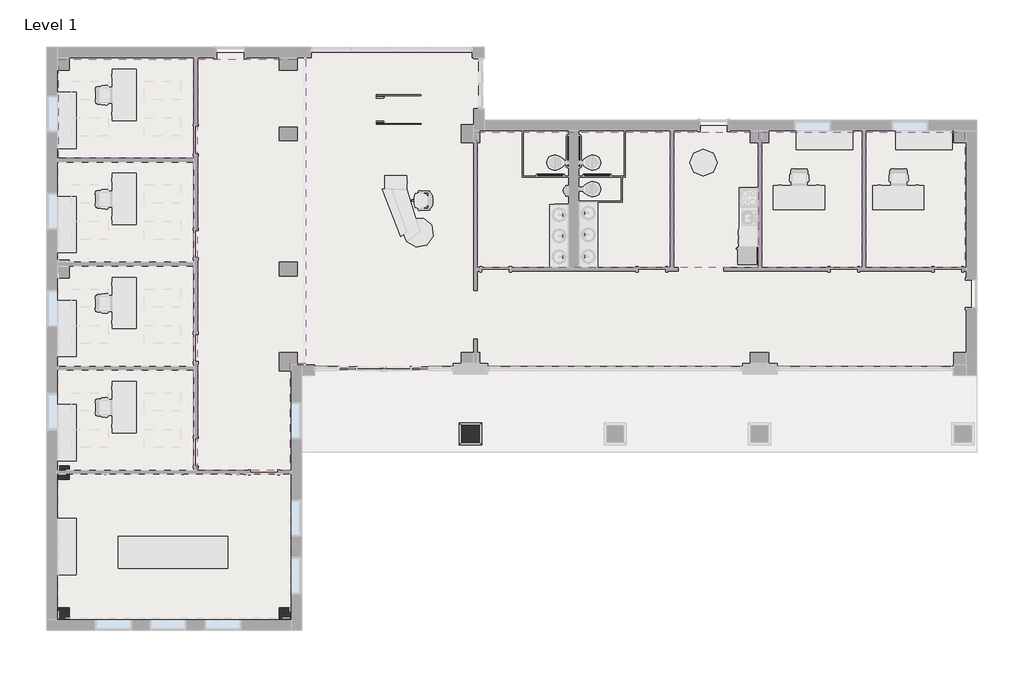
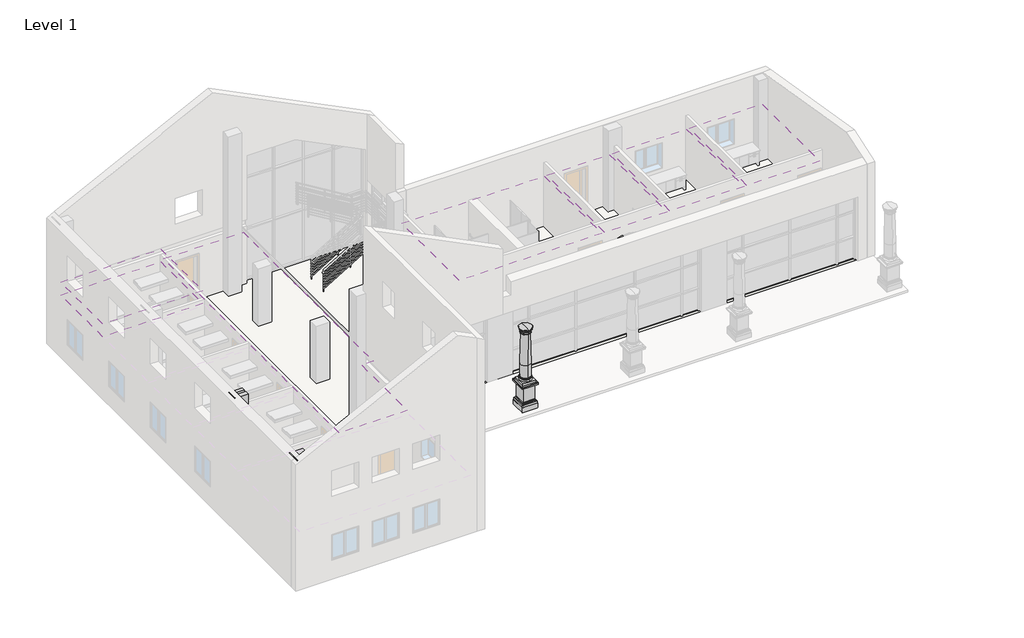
# One storey, part 4 of 8: 7 coverings, 4 columns, 1 slab.
"""IFC4 building model written with IfcOpenShell, lengths in millimetres."""

import ifcopenshell
import ifcopenshell.guid

model = None  # the IFC model being written
_history = None  # IfcOwnerHistory: only IFC2X3 demands one
_inside = {}  # id of a spatial element -> (the spatial element, [elements in it])
_under = {}  # id of a project, library or spatial element -> (it, [spatial elements below it])
_declared = {}  # id of a project -> (the project, [libraries it declares])
_typed = {}  # id of a type object -> (the type object, [elements of that type])
_made_of = {}  # id of a material, layer set ... -> (it, [elements and type objects made of it])


def new_model(schema):
    """Start an empty IFC model of exactly this schema.

    Asked for "IFC4X3", IfcOpenShell would pick the latest addendum, in which some entities
    have other attributes; the version numbers below select the first issue.
    IFC2X3 requires an IfcOwnerHistory on every rooted entity: one is made here for all.
    """
    global model, _history
    if schema == "IFC4X3":
        model = ifcopenshell.file(schema_version=(4, 3, 0, 0))
    else:
        model = ifcopenshell.file(schema=schema)
    _inside.clear()
    _under.clear()
    _declared.clear()
    _typed.clear()
    _made_of.clear()
    _history = None
    if model.schema == "IFC2X3":
        org = make("IfcOrganization", Name="unknown")
        user = make(
            "IfcPersonAndOrganization",
            ThePerson=make("IfcPerson", FamilyName="unknown"),
            TheOrganization=org,
        )
        app = make(
            "IfcApplication",
            ApplicationDeveloper=org,
            Version="unknown",
            ApplicationFullName="unknown",
            ApplicationIdentifier="unknown",
        )
        _history = make(
            "IfcOwnerHistory",
            OwningUser=user,
            OwningApplication=app,
            ChangeAction="ADDED",
            CreationDate=0,
        )
    return model


def make(cls, **values):
    """One entity of the class cls with the attributes given. An attribute that is None is left unset."""
    return model.create_entity(
        cls, **{name: value for name, value in values.items() if value is not None}
    )


def rooted(cls, **values):
    """An entity with a GlobalId (a new one), such as an element, a storey or a relation."""
    return make(cls, GlobalId=ifcopenshell.guid.new(), OwnerHistory=_history, **values)


def si_unit(unit_type, name, prefix=None):
    """IfcSIUnit, for example si_unit("LENGTHUNIT", "METRE", prefix="MILLI")."""
    return make("IfcSIUnit", UnitType=unit_type, Prefix=prefix, Name=name)


def assignment(units):
    """IfcUnitAssignment: the units of a project."""
    return None if units is None else make("IfcUnitAssignment", Units=units)


def point(xyz):
    """IfcCartesianPoint."""
    return None if xyz is None else make("IfcCartesianPoint", Coordinates=xyz)


def direction(xyz):
    """IfcDirection."""
    return None if xyz is None else make("IfcDirection", DirectionRatios=xyz)


def frame(location, z_axis=None, x_axis=None):
    """IfcAxis2Placement3D, a coordinate frame: its origin and axes. An axis left out is left unset."""
    return make(
        "IfcAxis2Placement3D",
        Location=point(location),
        Axis=direction(z_axis),
        RefDirection=direction(x_axis),
    )


def origin():
    """The frame at (0, 0, 0) with its axes left unset."""
    return frame((0.0, 0.0, 0.0))


def place(relative_to, where):
    """IfcLocalPlacement: puts the frame where relative to a parent placement (None: the world)."""
    return make(
        "IfcLocalPlacement", PlacementRelTo=relative_to, RelativePlacement=where
    )


def context(
    kind, dimensions, precision=None, world=None, true_north=None, identifier=None
):
    """IfcGeometricRepresentationContext, for example the 3D "Model" context."""
    return make(
        "IfcGeometricRepresentationContext",
        ContextIdentifier=identifier,
        ContextType=kind,
        CoordinateSpaceDimension=dimensions,
        Precision=precision,
        WorldCoordinateSystem=world,
        TrueNorth=true_north,
    )


def project(units=None, contexts=None):
    """IfcProject with its units and contexts."""
    return rooted(
        "IfcProject",
        Name="project",
        RepresentationContexts=contexts,
        UnitsInContext=assignment(units),
    )


def spatial(cls, under=None, at=None, **own):
    """A site, building, storey or space (cls), placed at a placement, below another one or the project."""
    s = rooted(cls, ObjectPlacement=at, **own)
    if under is not None:
        _under.setdefault(under.id(), (under, []))[1].append(s)
    return s


def polyline(points):
    """IfcPolyline through the points."""
    return make("IfcPolyline", Points=[point(p) for p in points])


def circle_curve(where, radius):
    """IfcCircle in the frame where."""
    return make("IfcCircle", Position=where, Radius=radius)


def ellipse_curve(where, semi_axis1, semi_axis2):
    """IfcEllipse in the frame where."""
    return make(
        "IfcEllipse", Position=where, SemiAxis1=semi_axis1, SemiAxis2=semi_axis2
    )


def trimmed(basis, trim1, trim2, sense, master):
    """IfcTrimmedCurve: the piece of a basis curve between two trims."""
    return make(
        "IfcTrimmedCurve",
        BasisCurve=basis,
        Trim1=trim1,
        Trim2=trim2,
        SenseAgreement=sense,
        MasterRepresentation=master,
    )


def outline(outer, holes=None, kind="AREA"):
    """IfcArbitraryClosedProfileDef: a profile drawn as a closed curve; with holes, ...WithVoids."""
    if holes is None:
        return make("IfcArbitraryClosedProfileDef", ProfileType=kind, OuterCurve=outer)
    return make(
        "IfcArbitraryProfileDefWithVoids",
        ProfileType=kind,
        OuterCurve=outer,
        InnerCurves=holes,
    )


def extrude(swept, where, along, depth):
    """IfcExtrudedAreaSolid: the profile swept, set in the frame where, extruded along a direction by depth."""
    return make(
        "IfcExtrudedAreaSolid",
        SweptArea=swept,
        Position=where,
        ExtrudedDirection=direction(along),
        Depth=depth,
    )


def faces_of(points, faces, orient=None, outer=None):
    """IfcFace entities. A face is a list of loops; a loop is a list of indices into points, from 0.

    orient and outer hold one flag for each loop. By default every Orientation is true, the
    first loop of a face is its IfcFaceOuterBound and the others are IfcFaceBound.
    """
    made = []
    for i, loops in enumerate(faces):
        bounds = []
        for j, loop in enumerate(loops):
            is_outer = j == 0 if outer is None else outer[i][j]
            bounds.append(
                make(
                    "IfcFaceOuterBound" if is_outer else "IfcFaceBound",
                    Bound=make("IfcPolyLoop", Polygon=[points[k] for k in loop]),
                    Orientation=True if orient is None else orient[i][j],
                )
            )
        made.append(make("IfcFace", Bounds=bounds))
    return made


def faceted_brep(points, faces, orient=None, outer=None, voids=None):
    """IfcFacetedBrep: a solid bounded by flat faces; with voids (closed shells), ...WithVoids."""
    shared = [point(p) for p in points]
    hull = make("IfcClosedShell", CfsFaces=faces_of(shared, faces, orient, outer))
    if voids is None:
        return make("IfcFacetedBrep", Outer=hull)
    return make(
        "IfcFacetedBrepWithVoids",
        Outer=hull,
        Voids=[
            make(cls, CfsFaces=faces_of(shared, fs, o, b)) for cls, fs, o, b in voids
        ],
    )


def shape(context_of_items, identifier, shape_type, items):
    """IfcShapeRepresentation: the items that make up one representation, for example the "Body"."""
    return make(
        "IfcShapeRepresentation",
        ContextOfItems=context_of_items,
        RepresentationIdentifier=identifier,
        RepresentationType=shape_type,
        Items=items,
    )


def made_of(thing, what):
    """Note that an element or type object is made of a material, layer set ...; save() writes the relation."""
    if what is not None:
        _made_of.setdefault(what.id(), (what, []))[1].append(thing)
    return thing


def element(
    cls,
    number,
    at=None,
    inside=None,
    cuts=None,
    type_object=None,
    material=None,
    context=None,
    identifier="Body",
    shape_type=None,
    held_by="IfcProductDefinitionShape",
    body=None,
    shapes=None,
    **own,
):
    """One element of the class cls, such as IfcWall. Its Tag is "e" and its number.

    at: its placement. inside: the storey or other place that contains it. cuts: it is an
    opening in that element (IfcRelVoidsElement). A single representation is given by context,
    identifier, shape_type and body (its items); several are given by shapes. held_by: the class
    of the entity that holds the representations. save() writes the other relations.
    """
    e = rooted(cls, Tag="e%d" % number, ObjectPlacement=at, **own)
    if body is not None:
        shapes = [shape(context, identifier, shape_type, body)]
    if shapes is not None:
        e.Representation = make(held_by, Representations=shapes)
    if inside is not None:
        _inside.setdefault(inside.id(), (inside, []))[1].append(e)
    if cuts is not None:
        rooted(
            "IfcRelVoidsElement", RelatingBuildingElement=cuts, RelatedOpeningElement=e
        )
    if type_object is not None:
        _typed.setdefault(type_object.id(), (type_object, []))[1].append(e)
    return made_of(e, material)


def aggregate(whole, parts):
    """IfcRelAggregates: a whole, such as a stair, and the parts it consists of."""
    return rooted("IfcRelAggregates", RelatingObject=whole, RelatedObjects=parts)


def save(model, path):
    """Write the relations noted so far, then the file.

    IfcRelAggregates (storeys below a building ...), IfcRelContainedInSpatialStructure (elements
    in a storey), IfcRelDefinesByType, IfcRelAssociatesMaterial and IfcRelDeclares: one each for
    every whole, place, type object, material and project.
    """
    for whole, parts in _under.values():
        aggregate(whole, parts)
    for where, things in _inside.values():
        rooted(
            "IfcRelContainedInSpatialStructure",
            RelatedElements=things,
            RelatingStructure=where,
        )
    for kind, things in _typed.values():
        rooted("IfcRelDefinesByType", RelatedObjects=things, RelatingType=kind)
    for what, things in _made_of.values():
        rooted("IfcRelAssociatesMaterial", RelatedObjects=things, RelatingMaterial=what)
    for by, libraries in _declared.values():
        rooted("IfcRelDeclares", RelatingContext=by, RelatedDefinitions=libraries)
    model.write(path)


def plane_surface(at):
    """IfcPlane: the flat surface through the origin of the frame at, square to its z axis."""
    return make("IfcPlane", Position=at)


def cylinder_surface(at, radius):
    """IfcCylindricalSurface: all points at the distance radius from the z axis of the frame at."""
    return make("IfcCylindricalSurface", Position=at, Radius=radius)


def revolved_surface(curve, axis_point, axis_direction):
    """IfcSurfaceOfRevolution: the curve turned about the line through axis_point along axis_direction."""
    return make(
        "IfcSurfaceOfRevolution",
        SweptCurve=make("IfcArbitraryOpenProfileDef", ProfileType="CURVE", Curve=curve),
        AxisPosition=make("IfcAxis1Placement", Location=point(axis_point), Axis=direction(axis_direction)),
    )


def advanced_brep(points, edges, surfaces, faces):
    """IfcAdvancedBrep: a solid bounded by faces that lie on surfaces and meet in shared edges.

    An edge is (start, end): straight between two places in points (the first is 0);
    or (start, end, curve); or (start, end, curve, False) where it runs against its curve.
    A face is (place in surfaces, loops), or (place, loops, False) where it looks against
    its surface's normal. A loop lists edges by number (the first is 1), with a minus sign
    where the edge is run from its end to its start. The first loop is the outer one.
    """
    corners = [point(p) for p in points]
    vertices = [make("IfcVertexPoint", VertexGeometry=c) for c in corners]
    made = []
    for start, end, *more in edges:
        made.append(
            make(
                "IfcEdgeCurve",
                EdgeStart=vertices[start],
                EdgeEnd=vertices[end],
                EdgeGeometry=more[0] if more else make("IfcPolyline", Points=[corners[start], corners[end]]),
                SameSense=more[1] if len(more) > 1 else True,
            )
        )
    hull = []
    for where, loops, *sense in faces:
        bounds = []
        for j, loop in enumerate(loops):
            ring = [make("IfcOrientedEdge", EdgeElement=made[abs(k) - 1], Orientation=k > 0) for k in loop]
            bounds.append(
                make(
                    "IfcFaceOuterBound" if j == 0 else "IfcFaceBound",
                    Bound=make("IfcEdgeLoop", EdgeList=ring),
                    Orientation=True,
                )
            )
        hull.append(make("IfcAdvancedFace", Bounds=bounds, FaceSurface=surfaces[where], SameSense=sense[0] if sense else True))
    return make("IfcAdvancedBrep", Outer=make("IfcClosedShell", CfsFaces=hull))


model = new_model("IFC4")

# Units and contexts
model_context = context("Model", 3, world=origin())
ifc_project = project(units=[si_unit("LENGTHUNIT", "METRE", prefix="MILLI")], contexts=[model_context])

# Site, building, storey
site = spatial("IfcSite", under=ifc_project)
building = spatial("IfcBuilding", under=site)
storey = spatial("IfcBuildingStorey", under=building, Name="Level 1", Elevation=0.0)

# Columns
placement = place(None, origin())
element("IfcColumn", 1, ObjectType="Doric Column : 16'  Height (10 2/3 x Dia.)", at=placement, inside=storey, context=model_context, shape_type="SolidModel", body=[
    extrude(outline(polyline([(525.9983448, -1720.0769576), (525.9983448, -2297.9269576), (-51.8516552, -2297.9269576), (-51.8516552, -1720.0769576), (525.9983448, -1720.0769576)])), frame((0.0, 0.0, 1117.6), z_axis=(0.0, 0.0, 1.0), x_axis=(1.0, 0.0, 0.0)), (0.0, 0.0, 1.0), 107.95),
    faceted_brep([(8.4733448, -2237.6019576, 1117.6), (-134.4016552, -2380.4769576, 1117.6), (608.5483448, -2380.4769576, 1117.6), (465.6733448, -2237.6019576, 1117.6), (8.4733448, -2237.6019576, 1003.3), (465.6733448, -2237.6019576, 1003.3), (-62.8095723, -2308.8848746, 1003.3), (536.9562619, -2308.8848746, 1003.3), (-96.3016552, -2342.3769576, 1028.7), (570.4483448, -2342.3769576, 1028.7), (-121.7016552, -2367.7769576, 1028.7), (595.8483448, -2367.7769576, 1028.7), (-121.7016552, -2367.7769576, 1092.2), (595.8483448, -2367.7769576, 1092.2), (-134.4016552, -2380.4769576, 1092.2), (608.5483448, -2380.4769576, 1092.2), (608.5483448, -1637.5269576, 1117.6), (465.6733448, -1780.4019576, 1117.6), (465.6733448, -1780.4019576, 1003.3), (536.9562619, -1709.1190405, 1003.3), (570.4483448, -1675.6269576, 1028.7), (595.8483448, -1650.2269576, 1028.7), (595.8483448, -1650.2269576, 1092.2), (608.5483448, -1637.5269576, 1092.2), (-134.4016552, -1637.5269576, 1117.6), (8.4733448, -1780.4019576, 1117.6), (8.4733448, -1780.4019576, 1003.3), (-62.8095723, -1709.1190405, 1003.3), (-96.3016552, -1675.6269576, 1028.7), (-121.7016552, -1650.2269576, 1028.7), (-121.7016552, -1650.2269576, 1092.2), (-134.4016552, -1637.5269576, 1092.2)], [[[0, 1, 2, 3]], [[4, 0, 3, 5]], [[6, 4, 5, 7]], [[8, 6, 7, 9]], [[10, 8, 9, 11]], [[12, 10, 11, 13]], [[14, 12, 13, 15]], [[1, 14, 15, 2]], [[3, 2, 16, 17]], [[5, 3, 17, 18]], [[7, 5, 18, 19]], [[9, 7, 19, 20]], [[11, 9, 20, 21]], [[13, 11, 21, 22]], [[15, 13, 22, 23]], [[2, 15, 23, 16]], [[17, 16, 24, 25]], [[18, 17, 25, 26]], [[19, 18, 26, 27]], [[20, 19, 27, 28]], [[21, 20, 28, 29]], [[22, 21, 29, 30]], [[23, 22, 30, 31]], [[16, 23, 31, 24]], [[25, 24, 1, 0]], [[26, 25, 0, 4]], [[27, 26, 4, 6]], [[28, 27, 6, 8]], [[29, 28, 8, 10]], [[30, 29, 10, 12]], [[31, 30, 12, 14]], [[24, 31, 14, 1]]]),
    advanced_brep(
    [(237.0733448, -2256.6519576, 1358.9), (237.0733448, -1761.3519576, 1358.9), (237.0733448, -1780.4019576, 1377.95), (237.0733448, -2237.6019576, 1377.95), (237.0733448, -1780.4019576, 1976.4375), (237.0733448, -2237.6019576, 1976.4375), (237.0733448, -2256.6519576, 1339.85), (237.0733448, -1761.3519576, 1339.85), (237.0733448, -2256.6519576, 1308.1), (237.0733448, -1761.3519576, 1308.1), (237.0733448, -2256.6519576, 1225.55), (237.0733448, -1761.3519576, 1225.55), (237.0733448, -2009.0019576, 1225.55), (237.0733448, -1808.9769576, 3440.1125), (237.0733448, -2209.0269576, 3440.1125), (237.0733448, -2301.1019576, 3675.0625601), (237.0733448, -1716.9019576, 3675.0625601), (237.0733448, -1716.9019576, 3694.1125), (237.0733448, -2301.1019576, 3694.1125), (237.0733448, -2009.0019576, 3694.1125), (237.0733448, -2282.0518974, 3656.0125), (237.0733448, -1735.9520177, 3656.0125), (237.0733448, -2278.8769576, 3656.0125), (237.0733448, -1739.1269576, 3656.0125), (237.0733448, -2278.8769576, 3605.2125), (237.0733448, -1739.1269576, 3605.2125), (237.0733448, -2272.5269576, 3605.2125), (237.0733448, -1745.4769576, 3605.2125), (237.0733448, -2228.0769576, 3560.7625), (237.0733448, -1789.9269576, 3560.7625), (237.0733448, -2228.0769576, 3541.7125), (237.0733448, -1789.9269576, 3541.7125), (237.0733448, -2209.0269576, 3541.7125), (237.0733448, -1808.9769576, 3541.7125), (237.0733448, -2209.0269576, 3459.1625), (237.0733448, -1808.9769576, 3459.1625), (237.0733448, -2228.0769576, 3459.1625), (237.0733448, -1789.9269576, 3459.1625), (237.0733448, -2228.0769576, 3440.1125), (237.0733448, -1789.9269576, 3440.1125)],
    [
        (0, 1, circle_curve(frame((237.0733448, -2009.0019576, 1358.9), z_axis=(0.0, 0.0, 1.0), x_axis=(0.0, 1.0, 0.0)), 247.65)),
        (1, 2, circle_curve(frame((237.0733448, -1761.3519576, 1377.95), z_axis=(-1.0, 0.0, 0.0), x_axis=(0.0, -1.0, 0.0)), 19.05)),
        (2, 3, circle_curve(frame((237.0733448, -2009.0019576, 1377.95), z_axis=(0.0, 0.0, -1.0), x_axis=(0.0, 1.0, 0.0)), 228.6)),
        (3, 0, circle_curve(frame((237.0733448, -2256.6519576, 1377.95), z_axis=(-1.0, 0.0, 0.0), x_axis=(0.0, 1.0, 0.0)), 19.05)),
        (2, 4),
        (4, 5, circle_curve(frame((237.0733448, -2009.0019576, 1976.4375), z_axis=(0.0, 0.0, -1.0), x_axis=(0.0, 1.0, 0.0)), 228.6)),
        (5, 3),
        (2, 3, circle_curve(frame((237.0733448, -2009.0019576, 1377.95), z_axis=(0.0, 0.0, 1.0), x_axis=(0.0, 1.0, 0.0)), 228.6)),
        (5, 4, circle_curve(frame((237.0733448, -2009.0019576, 1976.4375), z_axis=(0.0, 0.0, -1.0), x_axis=(0.0, 1.0, 0.0)), 228.6)),
        (1, 0, circle_curve(frame((237.0733448, -2009.0019576, 1358.9), z_axis=(0.0, 0.0, 1.0), x_axis=(0.0, 1.0, 0.0)), 247.65)),
        (6, 7, circle_curve(frame((237.0733448, -2009.0019576, 1339.85), z_axis=(0.0, 0.0, 1.0), x_axis=(0.0, 1.0, 0.0)), 247.65)),
        (7, 1),
        (0, 6),
        (7, 6, circle_curve(frame((237.0733448, -2009.0019576, 1339.85), z_axis=(0.0, 0.0, 1.0), x_axis=(0.0, 1.0, 0.0)), 247.65)),
        (8, 9, circle_curve(frame((237.0733448, -2009.0019576, 1308.1), z_axis=(0.0, 0.0, 1.0), x_axis=(0.0, 1.0, 0.0)), 247.65)),
        (9, 7, circle_curve(frame((237.0733448, -1761.3519576, 1323.975), z_axis=(1.0, 0.0, 0.0), x_axis=(0.0, -1.0, 0.0)), 15.875)),
        (6, 8, circle_curve(frame((237.0733448, -2256.6519576, 1323.975), z_axis=(1.0, 0.0, 0.0), x_axis=(0.0, 1.0, 0.0)), 15.875)),
        (9, 8, circle_curve(frame((237.0733448, -2009.0019576, 1308.1), z_axis=(0.0, 0.0, 1.0), x_axis=(0.0, 1.0, 0.0)), 247.65)),
        (10, 11, circle_curve(frame((237.0733448, -2009.0019576, 1225.55), z_axis=(0.0, 0.0, 1.0), x_axis=(0.0, 1.0, 0.0)), 247.65)),
        (11, 9, circle_curve(frame((237.0733448, -1761.3519576, 1266.825), z_axis=(1.0, 0.0, 0.0), x_axis=(0.0, -1.0, 0.0)), 41.275)),
        (8, 10, circle_curve(frame((237.0733448, -2256.6519576, 1266.825), z_axis=(1.0, 0.0, 0.0), x_axis=(0.0, 1.0, 0.0)), 41.275)),
        (11, 10, circle_curve(frame((237.0733448, -2009.0019576, 1225.55), z_axis=(0.0, 0.0, 1.0), x_axis=(0.0, 1.0, 0.0)), 247.65)),
        (12, 11),
        (10, 12),
        (4, 13),
        (13, 14, circle_curve(frame((237.0733448, -2009.0019576, 3440.1125), z_axis=(0.0, 0.0, -1.0), x_axis=(0.0, 1.0, 0.0)), 200.025)),
        (14, 5),
        (14, 13, circle_curve(frame((237.0733448, -2009.0019576, 3440.1125), z_axis=(0.0, 0.0, -1.0), x_axis=(0.0, 1.0, 0.0)), 200.025)),
        (15, 16, circle_curve(frame((237.0733448, -2009.0019576, 3675.0625601), z_axis=(0.0, 0.0, 1.0), x_axis=(0.0, 1.0, 0.0)), 292.1)),
        (16, 17),
        (17, 18, circle_curve(frame((237.0733448, -2009.0019576, 3694.1125), z_axis=(0.0, 0.0, -1.0), x_axis=(0.0, 1.0, 0.0)), 292.1)),
        (18, 15),
        (17, 19),
        (19, 18),
        (17, 18, circle_curve(frame((237.0733448, -2009.0019576, 3694.1125), z_axis=(0.0, 0.0, 1.0), x_axis=(0.0, 1.0, 0.0)), 292.1)),
        (16, 15, circle_curve(frame((237.0733448, -2009.0019576, 3675.0625601), z_axis=(0.0, 0.0, 1.0), x_axis=(0.0, 1.0, 0.0)), 292.1)),
        (20, 21, circle_curve(frame((237.0733448, -2009.0019576, 3656.0125), z_axis=(0.0, 0.0, 1.0), x_axis=(0.0, 1.0, 0.0)), 273.0499399)),
        (21, 16, circle_curve(frame((237.0733448, -1716.9019576, 3656.0125), z_axis=(-1.0, 0.0, 0.0), x_axis=(0.0, -1.0, 0.0)), 19.0500601)),
        (15, 20, circle_curve(frame((237.0733448, -2301.1019576, 3656.0125), z_axis=(-1.0, 0.0, 0.0), x_axis=(0.0, 1.0, 0.0)), 19.0500601)),
        (21, 20, circle_curve(frame((237.0733448, -2009.0019576, 3656.0125), z_axis=(0.0, 0.0, 1.0), x_axis=(0.0, 1.0, 0.0)), 273.0499399)),
        (22, 23, circle_curve(frame((237.0733448, -2009.0019576, 3656.0125), z_axis=(0.0, 0.0, 1.0), x_axis=(0.0, 1.0, 0.0)), 269.875)),
        (23, 21),
        (20, 22),
        (23, 22, circle_curve(frame((237.0733448, -2009.0019576, 3656.0125), z_axis=(0.0, 0.0, 1.0), x_axis=(0.0, 1.0, 0.0)), 269.875)),
        (24, 25, circle_curve(frame((237.0733448, -2009.0019576, 3605.2125), z_axis=(0.0, 0.0, 1.0), x_axis=(0.0, 1.0, 0.0)), 269.875)),
        (25, 23),
        (22, 24),
        (25, 24, circle_curve(frame((237.0733448, -2009.0019576, 3605.2125), z_axis=(0.0, 0.0, 1.0), x_axis=(0.0, 1.0, 0.0)), 269.875)),
        (26, 27, circle_curve(frame((237.0733448, -2009.0019576, 3605.2125), z_axis=(0.0, 0.0, 1.0), x_axis=(0.0, 1.0, 0.0)), 263.525)),
        (27, 25),
        (24, 26),
        (27, 26, circle_curve(frame((237.0733448, -2009.0019576, 3605.2125), z_axis=(0.0, 0.0, 1.0), x_axis=(0.0, 1.0, 0.0)), 263.525)),
        (28, 29, circle_curve(frame((237.0733448, -2009.0019576, 3560.7625), z_axis=(0.0, 0.0, 1.0), x_axis=(0.0, 1.0, 0.0)), 219.075)),
        (29, 27, circle_curve(frame((237.0733448, -1789.9269576, 3605.2125), z_axis=(1.0, 0.0, 0.0), x_axis=(0.0, -1.0, 0.0)), 44.45)),
        (26, 28, circle_curve(frame((237.0733448, -2228.0769576, 3605.2125), z_axis=(1.0, 0.0, 0.0), x_axis=(0.0, 1.0, 0.0)), 44.45)),
        (29, 28, circle_curve(frame((237.0733448, -2009.0019576, 3560.7625), z_axis=(0.0, 0.0, 1.0), x_axis=(0.0, 1.0, 0.0)), 219.075)),
        (30, 31, circle_curve(frame((237.0733448, -2009.0019576, 3541.7125), z_axis=(0.0, 0.0, 1.0), x_axis=(0.0, 1.0, 0.0)), 219.075)),
        (31, 29, circle_curve(frame((237.0733448, -1789.9269576, 3551.2375), z_axis=(1.0, 0.0, 0.0), x_axis=(0.0, -1.0, 0.0)), 9.525)),
        (28, 30, circle_curve(frame((237.0733448, -2228.0769576, 3551.2375), z_axis=(1.0, 0.0, 0.0), x_axis=(0.0, 1.0, 0.0)), 9.525)),
        (31, 30, circle_curve(frame((237.0733448, -2009.0019576, 3541.7125), z_axis=(0.0, 0.0, 1.0), x_axis=(0.0, 1.0, 0.0)), 219.075)),
        (32, 33, circle_curve(frame((237.0733448, -2009.0019576, 3541.7125), z_axis=(0.0, 0.0, 1.0), x_axis=(0.0, 1.0, 0.0)), 200.025)),
        (33, 31),
        (30, 32),
        (33, 32, circle_curve(frame((237.0733448, -2009.0019576, 3541.7125), z_axis=(0.0, 0.0, 1.0), x_axis=(0.0, 1.0, 0.0)), 200.025)),
        (34, 35, circle_curve(frame((237.0733448, -2009.0019576, 3459.1625), z_axis=(0.0, 0.0, 1.0), x_axis=(0.0, 1.0, 0.0)), 200.025)),
        (35, 33),
        (32, 34),
        (35, 34, circle_curve(frame((237.0733448, -2009.0019576, 3459.1625), z_axis=(0.0, 0.0, 1.0), x_axis=(0.0, 1.0, 0.0)), 200.025)),
        (36, 37, circle_curve(frame((237.0733448, -2009.0019576, 3459.1625), z_axis=(0.0, 0.0, 1.0), x_axis=(0.0, 1.0, 0.0)), 219.075)),
        (37, 35),
        (34, 36),
        (37, 36, circle_curve(frame((237.0733448, -2009.0019576, 3459.1625), z_axis=(0.0, 0.0, 1.0), x_axis=(0.0, 1.0, 0.0)), 219.075)),
        (38, 39, circle_curve(frame((237.0733448, -2009.0019576, 3440.1125), z_axis=(0.0, 0.0, 1.0), x_axis=(0.0, 1.0, 0.0)), 219.075)),
        (39, 37, circle_curve(frame((237.0733448, -1789.9269576, 3449.6375), z_axis=(1.0, 0.0, 0.0), x_axis=(0.0, -1.0, 0.0)), 9.525)),
        (36, 38, circle_curve(frame((237.0733448, -2228.0769576, 3449.6375), z_axis=(1.0, 0.0, 0.0), x_axis=(0.0, 1.0, 0.0)), 9.525)),
        (39, 38, circle_curve(frame((237.0733448, -2009.0019576, 3440.1125), z_axis=(0.0, 0.0, 1.0), x_axis=(0.0, 1.0, 0.0)), 219.075)),
        (13, 39),
        (38, 14),
    ],
    [
        revolved_surface(trimmed(ellipse_curve(frame((237.0733448, -1761.3519576, 1377.95), z_axis=(1.0, 0.0, 0.0), x_axis=(0.0, -1.0, 0.0)), 19.05, 19.05), [point((237.0733448, -1780.4019576, 1377.95))], [point((237.0733448, -1761.3519576, 1358.9))], True, "CARTESIAN"), (237.0733448, -2009.0019576, 3694.1125), (0.0, 0.0, -1.0)),
        cylinder_surface(frame((237.0733448, -2009.0019576, 3694.1125), z_axis=(0.0, 0.0, -1.0), x_axis=(0.0, 1.0, 0.0)), 228.6),
        cylinder_surface(frame((237.0733448, -2009.0019576, 3694.1125), z_axis=(0.0, 0.0, -1.0), x_axis=(0.0, 1.0, 0.0)), 247.65),
        revolved_surface(trimmed(ellipse_curve(frame((237.0733448, -1761.3519576, 1323.975), z_axis=(-1.0, 0.0, 0.0), x_axis=(0.0, -1.0, 0.0)), 15.875, 15.875), [point((237.0733448, -1761.3519576, 1339.85))], [point((237.0733448, -1761.3519576, 1308.1))], True, "CARTESIAN"), (237.0733448, -2009.0019576, 3694.1125), (0.0, 0.0, -1.0)),
        revolved_surface(trimmed(ellipse_curve(frame((237.0733448, -1761.3519576, 1266.825), z_axis=(-1.0, 0.0, 0.0), x_axis=(0.0, -1.0, 0.0)), 41.275, 41.275), [point((237.0733448, -1761.3519576, 1308.1))], [point((237.0733448, -1761.3519576, 1225.55))], True, "CARTESIAN"), (237.0733448, -2009.0019576, 3694.1125), (0.0, 0.0, -1.0)),
        plane_surface(frame((237.0733448, -2009.0019576, 1225.55), z_axis=(0.0, 0.0, -1.0), x_axis=(0.0, 1.0, 0.0))),
        revolved_surface(polyline([(237.0733448, -1808.9769576, 3440.1125), (237.0733448, -1780.4019576, 1976.4375)]), (237.0733448, -2009.0019576, 3694.1125), (0.0, 0.0, -1.0)),
        cylinder_surface(frame((237.0733448, -2009.0019576, 3694.1125), z_axis=(0.0, 0.0, -1.0), x_axis=(0.0, 1.0, 0.0)), 292.1),
        plane_surface(frame((237.0733448, -2009.0019576, 3694.1125), z_axis=(0.0, 0.0, 1.0), x_axis=(0.0, 1.0, 0.0))),
        revolved_surface(trimmed(ellipse_curve(frame((237.0733448, -1716.9019576, 3656.0125), z_axis=(1.0, 0.0, 0.0), x_axis=(0.0, -1.0, 0.0)), 19.0500601, 19.0500601), [point((237.0733448, -1716.9019576, 3675.0625601))], [point((237.0733448, -1735.9520177, 3656.0125))], True, "CARTESIAN"), (237.0733448, -2009.0019576, 3694.1125), (0.0, 0.0, -1.0)),
        plane_surface(frame((237.0733448, -2009.0019576, 3656.0125), z_axis=(0.0, 0.0, -1.0), x_axis=(0.0, 1.0, 0.0))),
        cylinder_surface(frame((237.0733448, -2009.0019576, 3694.1125), z_axis=(0.0, 0.0, -1.0), x_axis=(0.0, 1.0, 0.0)), 269.875),
        plane_surface(frame((237.0733448, -2009.0019576, 3605.2125), z_axis=(0.0, 0.0, -1.0), x_axis=(0.0, 1.0, 0.0))),
        revolved_surface(trimmed(ellipse_curve(frame((237.0733448, -1789.9269576, 3605.2125), z_axis=(-1.0, 0.0, 0.0), x_axis=(0.0, -1.0, 0.0)), 44.45, 44.45), [point((237.0733448, -1745.4769576, 3605.2125))], [point((237.0733448, -1789.9269576, 3560.7625))], True, "CARTESIAN"), (237.0733448, -2009.0019576, 3694.1125), (0.0, 0.0, -1.0)),
        revolved_surface(trimmed(ellipse_curve(frame((237.0733448, -1789.9269576, 3551.2375), z_axis=(-1.0, 0.0, 0.0), x_axis=(0.0, -1.0, 0.0)), 9.525, 9.525), [point((237.0733448, -1789.9269576, 3560.7625))], [point((237.0733448, -1789.9269576, 3541.7125))], True, "CARTESIAN"), (237.0733448, -2009.0019576, 3694.1125), (0.0, 0.0, -1.0)),
        plane_surface(frame((237.0733448, -2009.0019576, 3541.7125), z_axis=(0.0, 0.0, -1.0), x_axis=(0.0, 1.0, 0.0))),
        cylinder_surface(frame((237.0733448, -2009.0019576, 3694.1125), z_axis=(0.0, 0.0, -1.0), x_axis=(0.0, 1.0, 0.0)), 200.025),
        plane_surface(frame((237.0733448, -2009.0019576, 3459.1625), z_axis=(0.0, 0.0, 1.0), x_axis=(0.0, 1.0, 0.0))),
        revolved_surface(trimmed(ellipse_curve(frame((237.0733448, -1789.9269576, 3449.6375), z_axis=(-1.0, 0.0, 0.0), x_axis=(0.0, -1.0, 0.0)), 9.525, 9.525), [point((237.0733448, -1789.9269576, 3459.1625))], [point((237.0733448, -1789.9269576, 3440.1125))], True, "CARTESIAN"), (237.0733448, -2009.0019576, 3694.1125), (0.0, 0.0, -1.0)),
        plane_surface(frame((237.0733448, -2009.0019576, 3440.1125), z_axis=(0.0, 0.0, -1.0), x_axis=(0.0, 1.0, 0.0))),
    ],
    [
        (0, [[1, 2, 3, 4]]),
        (1, [[-3, 5, 6, 7]]),
        (1, [[8, -7, 9, -5]]),
        (0, [[10, -4, -8, -2]]),
        (2, [[11, 12, -1, 13]]),
        (2, [[14, -13, -10, -12]]),
        (3, [[15, 16, -11, 17]]),
        (3, [[18, -17, -14, -16]]),
        (4, [[19, 20, -15, 21]]),
        (4, [[22, -21, -18, -20]]),
        (5, [[23, -19, 24]]),
        (5, [[-24, -22, -23]]),
        (6, [[-6, 25, 26, 27]]),
        (6, [[-9, -27, 28, -25]]),
        (7, [[29, 30, 31, 32]]),
        (8, [[-31, 33, 34]]),
        (8, [[35, -34, -33]]),
        (7, [[36, -32, -35, -30]]),
        (9, [[37, 38, -29, 39]]),
        (9, [[40, -39, -36, -38]]),
        (10, [[41, 42, -37, 43]]),
        (10, [[44, -43, -40, -42]]),
        (11, [[45, 46, -41, 47]]),
        (11, [[48, -47, -44, -46]]),
        (12, [[49, 50, -45, 51]]),
        (12, [[52, -51, -48, -50]]),
        (13, [[53, 54, -49, 55]]),
        (13, [[56, -55, -52, -54]]),
        (14, [[57, 58, -53, 59]]),
        (14, [[60, -59, -56, -58]]),
        (15, [[61, 62, -57, 63]]),
        (15, [[64, -63, -60, -62]]),
        (16, [[65, 66, -61, 67]]),
        (16, [[68, -67, -64, -66]]),
        (17, [[69, 70, -65, 71]]),
        (17, [[72, -71, -68, -70]]),
        (18, [[73, 74, -69, 75]]),
        (18, [[76, -75, -72, -74]]),
        (19, [[-26, 77, -73, 78]]),
        (19, [[-28, -78, -76, -77]]),
    ],
),
    advanced_brep(
    [(582.5184911, -1663.5568112, -101.6), (582.5184911, -1663.5568112, 127.0), (582.5184911, -2354.4471039, 127.0), (582.5184911, -2354.4471039, -101.6), (465.6733448, -1780.4019576, -101.6), (465.6733448, -2237.6019576, -101.6), (465.6733448, -1780.4019576, 317.5), (465.6733448, -2237.6019576, 317.5), (499.9684911, -1746.1068112, 317.5), (499.9684911, -2271.8971039, 317.5), (519.0184911, -1727.0568112, 298.45), (519.0184911, -2290.9471039, 298.45), (519.0184911, -1727.0568112, 279.4), (519.0184911, -2290.9471039, 279.4), (541.2434911, -1704.8318112, 257.175), (541.2434911, -2313.1721039, 257.175), (563.4684911, -1682.6068112, 234.95), (563.4684911, -2335.3971039, 234.95), (563.4684911, -1682.6068112, 215.9), (563.4684911, -2335.3971039, 215.9), (572.9934911, -1673.0818112, 215.9), (572.9934911, -2344.9221039, 215.9), (572.9934911, -1673.0818112, 127.0), (572.9934911, -2344.9221039, 127.0), (-108.3718015, -2354.4471039, 127.0), (-108.3718015, -2354.4471039, -101.6), (8.4733448, -2237.6019576, -101.6), (8.4733448, -2237.6019576, 317.5), (-25.8218015, -2271.8971039, 317.5), (-44.8718015, -2290.9471039, 298.45), (-44.8718015, -2290.9471039, 279.4), (-67.0968015, -2313.1721039, 257.175), (-89.3218015, -2335.3971039, 234.95), (-89.3218015, -2335.3971039, 215.9), (-98.8468015, -2344.9221039, 215.9), (-98.8468015, -2344.9221039, 127.0), (-108.3718015, -1663.5568112, 127.0), (-108.3718015, -1663.5568112, -101.6), (8.4733448, -1780.4019576, -101.6), (8.4733448, -1780.4019576, 317.5), (-25.8218015, -1746.1068112, 317.5), (-44.8718015, -1727.0568112, 298.45), (-44.8718015, -1727.0568112, 279.4), (-67.0968015, -1704.8318112, 257.175), (-89.3218015, -1682.6068112, 234.95), (-89.3218015, -1682.6068112, 215.9), (-98.8468015, -1673.0818112, 215.9), (-98.8468015, -1673.0818112, 127.0)],
    [
        (0, 1),
        (1, 2),
        (2, 3),
        (3, 0),
        (4, 0),
        (3, 5),
        (5, 4),
        (6, 4),
        (5, 7),
        (7, 6),
        (8, 6),
        (7, 9),
        (9, 8),
        (10, 8, ellipse_curve(frame((519.0184911, -1727.0568112, 317.5), z_axis=(-0.7071067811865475, 0.7071067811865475, 0.0), x_axis=(-0.7071067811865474, -0.7071067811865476, 0.0)), 26.9407684, 19.05)),
        (9, 11, ellipse_curve(frame((519.0184911, -2290.9471039, 317.5), z_axis=(-0.7071067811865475, -0.7071067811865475, 0.0), x_axis=(0.7071067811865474, -0.7071067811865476, 0.0)), 26.9407684, 19.05)),
        (11, 10),
        (12, 10),
        (11, 13),
        (13, 12),
        (14, 12, ellipse_curve(frame((519.0184911, -1727.0568112, 257.175), z_axis=(0.7071067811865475, -0.7071067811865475, 0.0), x_axis=(0.7071067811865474, 0.7071067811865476, 0.0)), 31.4308964, 22.225)),
        (13, 15, ellipse_curve(frame((519.0184911, -2290.9471039, 257.175), z_axis=(0.7071067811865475, 0.7071067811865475, 0.0), x_axis=(-0.7071067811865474, 0.7071067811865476, 0.0)), 31.4308964, 22.225)),
        (15, 14),
        (16, 14, ellipse_curve(frame((563.4684911, -1682.6068112, 257.175), z_axis=(-0.7071067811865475, 0.7071067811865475, 0.0), x_axis=(-0.7071067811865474, -0.7071067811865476, 0.0)), 31.4308964, 22.225)),
        (15, 17, ellipse_curve(frame((563.4684911, -2335.3971039, 257.175), z_axis=(-0.7071067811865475, -0.7071067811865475, 0.0), x_axis=(0.7071067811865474, -0.7071067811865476, 0.0)), 31.4308964, 22.225)),
        (17, 16),
        (18, 16),
        (17, 19),
        (19, 18),
        (20, 18),
        (19, 21),
        (21, 20),
        (22, 20),
        (21, 23),
        (23, 22),
        (1, 22),
        (23, 2),
        (2, 24),
        (24, 25),
        (25, 3),
        (25, 26),
        (26, 5),
        (26, 27),
        (27, 7),
        (27, 28),
        (28, 9),
        (28, 29, ellipse_curve(frame((-44.8718015, -2290.9471039, 317.5), z_axis=(-0.7071067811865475, 0.7071067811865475, 0.0), x_axis=(-0.7071067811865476, -0.7071067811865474, 0.0)), 26.9407684, 19.05)),
        (29, 11),
        (29, 30),
        (30, 13),
        (30, 31, ellipse_curve(frame((-44.8718015, -2290.9471039, 257.175), z_axis=(0.7071067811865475, -0.7071067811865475, 0.0), x_axis=(0.7071067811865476, 0.7071067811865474, 0.0)), 31.4308964, 22.225)),
        (31, 15),
        (31, 32, ellipse_curve(frame((-89.3218015, -2335.3971039, 257.175), z_axis=(-0.7071067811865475, 0.7071067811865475, 0.0), x_axis=(-0.7071067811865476, -0.7071067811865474, 0.0)), 31.4308964, 22.225)),
        (32, 17),
        (32, 33),
        (33, 19),
        (33, 34),
        (34, 21),
        (34, 35),
        (35, 23),
        (35, 24),
        (24, 36),
        (36, 37),
        (37, 25),
        (37, 38),
        (38, 26),
        (38, 39),
        (39, 27),
        (39, 40),
        (40, 28),
        (40, 41, ellipse_curve(frame((-44.8718015, -1727.0568112, 317.5), z_axis=(0.7071067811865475, 0.7071067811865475, 0.0), x_axis=(-0.7071067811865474, 0.7071067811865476, 0.0)), 26.9407684, 19.05)),
        (41, 29),
        (41, 42),
        (42, 30),
        (42, 43, ellipse_curve(frame((-44.8718015, -1727.0568112, 257.175), z_axis=(-0.7071067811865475, -0.7071067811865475, 0.0), x_axis=(0.7071067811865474, -0.7071067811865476, 0.0)), 31.4308964, 22.225)),
        (43, 31),
        (43, 44, ellipse_curve(frame((-89.3218015, -1682.6068112, 257.175), z_axis=(0.7071067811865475, 0.7071067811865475, 0.0), x_axis=(-0.7071067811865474, 0.7071067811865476, 0.0)), 31.4308964, 22.225)),
        (44, 32),
        (44, 45),
        (45, 33),
        (45, 46),
        (46, 34),
        (46, 47),
        (47, 35),
        (47, 36),
        (36, 1),
        (0, 37),
        (4, 38),
        (6, 39),
        (8, 40),
        (10, 41),
        (12, 42),
        (14, 43),
        (16, 44),
        (18, 45),
        (20, 46),
        (22, 47),
    ],
    [
        plane_surface(frame((582.5184911, -1663.5568112, 127.0), z_axis=(1.0, 0.0, 0.0), x_axis=(0.0, -1.0, 0.0))),
        plane_surface(frame((582.5184911, -1663.5568112, -101.6), z_axis=(0.0, 0.0, -1.0), x_axis=(0.0, -1.0, 0.0))),
        plane_surface(frame((465.6733448, -1780.4019576, -101.6), z_axis=(-1.0, 0.0, 0.0), x_axis=(0.0, -1.0, 0.0))),
        plane_surface(frame((465.6733448, -1780.4019576, 317.5), z_axis=(0.0, 0.0, 1.0), x_axis=(0.0, -1.0, 0.0))),
        revolved_surface(polyline([(538.0684911, -2309.9971039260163, 317.5), (538.0684911, -1708.0068111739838, 317.5)]), (519.0184911, -1650.5418844, 317.5), (0.0, -1.0, 0.0)),
        plane_surface(frame((519.0184911, -1727.0568112, 298.45), z_axis=(1.0, 0.0, 0.0), x_axis=(0.0, -1.0, 0.0))),
        cylinder_surface(frame((519.0184911, -1650.5418844, 257.175), z_axis=(0.0, 1.0, 0.0), x_axis=(1.0, 0.0, 0.0)), 22.225),
        revolved_surface(polyline([(585.6934911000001, -2357.622103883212, 257.175), (585.6934911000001, -1660.3818112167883, 257.175)]), (563.4684911, -1650.5418844, 257.175), (0.0, -1.0, 0.0)),
        plane_surface(frame((563.4684911, -1682.6068112, 234.95), z_axis=(1.0, 0.0, 0.0), x_axis=(0.0, -1.0, 0.0))),
        plane_surface(frame((563.4684911, -1682.6068112, 215.9), z_axis=(0.0, 0.0, 1.0), x_axis=(0.0, -1.0, 0.0))),
        plane_surface(frame((572.9934911, -1673.0818112, 215.9), z_axis=(1.0, 0.0, 0.0), x_axis=(0.0, -1.0, 0.0))),
        plane_surface(frame((572.9934911, -1673.0818112, 127.0), z_axis=(0.0, 0.0, 1.0), x_axis=(0.0, -1.0, 0.0))),
        plane_surface(frame((582.5184911, -2354.4471039, 127.0), z_axis=(0.0, -1.0, 0.0), x_axis=(-1.0, 0.0, 0.0))),
        plane_surface(frame((582.5184911, -2354.4471039, -101.6), z_axis=(0.0, 0.0, -1.0), x_axis=(-1.0, 0.0, 0.0))),
        plane_surface(frame((465.6733448, -2237.6019576, -101.6), z_axis=(0.0, 1.0, 0.0), x_axis=(-1.0, 0.0, 0.0))),
        plane_surface(frame((465.6733448, -2237.6019576, 317.5), z_axis=(0.0, 0.0, 1.0), x_axis=(-1.0, 0.0, 0.0))),
        revolved_surface(polyline([(-63.921801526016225, -2309.9971039, 317.5), (538.0684911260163, -2309.9971039, 317.5)]), (595.533418, -2290.9471039, 317.5), (-1.0, 0.0, 0.0)),
        plane_surface(frame((519.0184911, -2290.9471039, 298.45), z_axis=(0.0, -1.0, 0.0), x_axis=(-1.0, 0.0, 0.0))),
        cylinder_surface(frame((595.533418, -2290.9471039, 257.175), z_axis=(1.0, 0.0, 0.0), x_axis=(0.0, -1.0, 0.0)), 22.225),
        revolved_surface(polyline([(-111.54680148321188, -2357.6221038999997, 257.175), (585.6934910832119, -2357.6221038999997, 257.175)]), (595.533418, -2335.3971039, 257.175), (-1.0, 0.0, 0.0)),
        plane_surface(frame((563.4684911, -2335.3971039, 234.95), z_axis=(0.0, -1.0, 0.0), x_axis=(-1.0, 0.0, 0.0))),
        plane_surface(frame((563.4684911, -2335.3971039, 215.9), z_axis=(0.0, 0.0, 1.0), x_axis=(-1.0, 0.0, 0.0))),
        plane_surface(frame((572.9934911, -2344.9221039, 215.9), z_axis=(0.0, -1.0, 0.0), x_axis=(-1.0, 0.0, 0.0))),
        plane_surface(frame((572.9934911, -2344.9221039, 127.0), z_axis=(0.0, 0.0, 1.0), x_axis=(-1.0, 0.0, 0.0))),
        plane_surface(frame((-108.3718015, -2354.4471039, 127.0), z_axis=(-1.0, 0.0, 0.0), x_axis=(0.0, 1.0, 0.0))),
        plane_surface(frame((-108.3718015, -2354.4471039, -101.6), z_axis=(0.0, 0.0, -1.0), x_axis=(0.0, 1.0, 0.0))),
        plane_surface(frame((8.4733448, -2237.6019576, -101.6), z_axis=(1.0, 0.0, 0.0), x_axis=(0.0, 1.0, 0.0))),
        plane_surface(frame((8.4733448, -2237.6019576, 317.5), z_axis=(0.0, 0.0, 1.0), x_axis=(0.0, 1.0, 0.0))),
        revolved_surface(polyline([(-63.9218015, -1708.0068111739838, 317.5), (-63.9218015, -2309.9971039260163, 317.5)]), (-44.8718015, -2367.4620307, 317.5), (0.0, 1.0, 0.0)),
        plane_surface(frame((-44.8718015, -2290.9471039, 298.45), z_axis=(-1.0, 0.0, 0.0), x_axis=(0.0, 1.0, 0.0))),
        cylinder_surface(frame((-44.8718015, -2367.4620307, 257.175), z_axis=(0.0, -1.0, 0.0), x_axis=(-1.0, 0.0, 0.0)), 22.225),
        revolved_surface(polyline([(-111.54680150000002, -1660.3818112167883, 257.175), (-111.54680150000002, -2357.622103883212, 257.175)]), (-89.3218015, -2367.4620307, 257.175), (0.0, 1.0, 0.0)),
        plane_surface(frame((-89.3218015, -2335.3971039, 234.95), z_axis=(-1.0, 0.0, 0.0), x_axis=(0.0, 1.0, 0.0))),
        plane_surface(frame((-89.3218015, -2335.3971039, 215.9), z_axis=(0.0, 0.0, 1.0), x_axis=(0.0, 1.0, 0.0))),
        plane_surface(frame((-98.8468015, -2344.9221039, 215.9), z_axis=(-1.0, 0.0, 0.0), x_axis=(0.0, 1.0, 0.0))),
        plane_surface(frame((-98.8468015, -2344.9221039, 127.0), z_axis=(0.0, 0.0, 1.0), x_axis=(0.0, 1.0, 0.0))),
        plane_surface(frame((-108.3718015, -1663.5568112, 127.0), z_axis=(0.0, 1.0, 0.0), x_axis=(1.0, 0.0, 0.0))),
        plane_surface(frame((-108.3718015, -1663.5568112, -101.6), z_axis=(0.0, 0.0, -1.0), x_axis=(1.0, 0.0, 0.0))),
        plane_surface(frame((8.4733448, -1780.4019576, -101.6), z_axis=(0.0, -1.0, 0.0), x_axis=(1.0, 0.0, 0.0))),
        plane_surface(frame((8.4733448, -1780.4019576, 317.5), z_axis=(0.0, 0.0, 1.0), x_axis=(1.0, 0.0, 0.0))),
        revolved_surface(polyline([(538.0684911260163, -1708.0068112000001, 317.5), (-63.92180152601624, -1708.0068112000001, 317.5)]), (-121.3867283, -1727.0568112, 317.5), (1.0, 0.0, 0.0)),
        plane_surface(frame((-44.8718015, -1727.0568112, 298.45), z_axis=(0.0, 1.0, 0.0), x_axis=(1.0, 0.0, 0.0))),
        cylinder_surface(frame((-121.3867283, -1727.0568112, 257.175), z_axis=(-1.0, 0.0, 0.0), x_axis=(0.0, 1.0, 0.0)), 22.225),
        revolved_surface(polyline([(585.6934910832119, -1660.3818112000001, 257.175), (-111.54680148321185, -1660.3818112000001, 257.175)]), (-121.3867283, -1682.6068112, 257.175), (1.0, 0.0, 0.0)),
        plane_surface(frame((-89.3218015, -1682.6068112, 234.95), z_axis=(0.0, 1.0, 0.0), x_axis=(1.0, 0.0, 0.0))),
        plane_surface(frame((-89.3218015, -1682.6068112, 215.9), z_axis=(0.0, 0.0, 1.0), x_axis=(1.0, 0.0, 0.0))),
        plane_surface(frame((-98.8468015, -1673.0818112, 215.9), z_axis=(0.0, 1.0, 0.0), x_axis=(1.0, 0.0, 0.0))),
        plane_surface(frame((-98.8468015, -1673.0818112, 127.0), z_axis=(0.0, 0.0, 1.0), x_axis=(1.0, 0.0, 0.0))),
    ],
    [
        (0, [[1, 2, 3, 4]]),
        (1, [[5, -4, 6, 7]]),
        (2, [[8, -7, 9, 10]]),
        (3, [[11, -10, 12, 13]]),
        (4, [[14, -13, 15, 16]]),
        (5, [[17, -16, 18, 19]]),
        (6, [[20, -19, 21, 22]]),
        (7, [[23, -22, 24, 25]]),
        (8, [[26, -25, 27, 28]]),
        (9, [[29, -28, 30, 31]]),
        (10, [[32, -31, 33, 34]]),
        (11, [[35, -34, 36, -2]]),
        (12, [[-3, 37, 38, 39]]),
        (13, [[-6, -39, 40, 41]]),
        (14, [[-9, -41, 42, 43]]),
        (15, [[-12, -43, 44, 45]]),
        (16, [[-15, -45, 46, 47]]),
        (17, [[-18, -47, 48, 49]]),
        (18, [[-21, -49, 50, 51]]),
        (19, [[-24, -51, 52, 53]]),
        (20, [[-27, -53, 54, 55]]),
        (21, [[-30, -55, 56, 57]]),
        (22, [[-33, -57, 58, 59]]),
        (23, [[-36, -59, 60, -37]]),
        (24, [[-38, 61, 62, 63]]),
        (25, [[-40, -63, 64, 65]]),
        (26, [[-42, -65, 66, 67]]),
        (27, [[-44, -67, 68, 69]]),
        (28, [[-46, -69, 70, 71]]),
        (29, [[-48, -71, 72, 73]]),
        (30, [[-50, -73, 74, 75]]),
        (31, [[-52, -75, 76, 77]]),
        (32, [[-54, -77, 78, 79]]),
        (33, [[-56, -79, 80, 81]]),
        (34, [[-58, -81, 82, 83]]),
        (35, [[-60, -83, 84, -61]]),
        (36, [[-62, 85, -1, 86]]),
        (37, [[-64, -86, -5, 87]]),
        (38, [[-66, -87, -8, 88]]),
        (39, [[-68, -88, -11, 89]]),
        (40, [[-70, -89, -14, 90]]),
        (41, [[-72, -90, -17, 91]]),
        (42, [[-74, -91, -20, 92]]),
        (43, [[-76, -92, -23, 93]]),
        (44, [[-78, -93, -26, 94]]),
        (45, [[-80, -94, -29, 95]]),
        (46, [[-82, -95, -32, 96]]),
        (47, [[-84, -96, -35, -85]]),
    ],
),
    extrude(outline(polyline([(500.5983448, -1745.4769576), (500.5983448, -2272.5269576), (-26.4516552, -2272.5269576), (-26.4516552, -1745.4769576), (500.5983448, -1745.4769576)])), frame((0.0, 0.0, 317.5), z_axis=(0.0, 0.0, 1.0), x_axis=(1.0, 0.0, 0.0)), (0.0, 0.0, 1.0), 685.8),
])
element("IfcColumn", 2, ObjectType="Rectangular Column : 18\" x 24\"", at=placement, inside=storey, context=model_context, shape_type="SweptSolid", body=[
    extrude(outline(polyline([(-3074.2144576, 6096.0), (-3074.2144576, 0.0), (-3232.9644576, 0.0), (-3232.9644576, 2743.2), (-3356.7894576, 2743.2), (-3356.7894576, 0.0), (-3531.4144576, 0.0), (-3531.4144576, 6096.0), (-3356.7894576, 6096.0), (-3356.7894576, 3048.0), (-3232.9644576, 3048.0), (-3232.9644576, 6096.0), (-3074.2144576, 6096.0)])), frame((-13583.7016552, 0.0, 0.0), z_axis=(1.0, 0.0, 0.0), x_axis=(0.0, 1.0, 0.0)), (0.0, 0.0, 1.0), 409.575),
    extrude(outline(polyline([(6096.0, -13748.8016552), (6096.0, -13783.7266552), (6078.5375, -13783.7266552), (6096.0, -13748.8016552)])), frame((0.0, -3531.4144576, 0.0), z_axis=(0.0, 1.0, 0.0), x_axis=(0.0, 0.0, 1.0)), (0.0, 0.0, 1.0), 457.2),
])
element("IfcColumn", 3, ObjectType="Rectangular Column : 24\" x 24\"", at=placement, inside=storey, context=model_context, shape_type="Brep", body=[
    faceted_brep([(-13174.1266552, -8233.5894576, 6096.0), (-13174.1266552, -7824.0144576, 6096.0), (-13583.7016552, -7824.0144576, 6096.0), (-13583.7016552, -8233.5894576, 6096.0), (-13174.1266552, -7824.0144576, 0.0), (-13174.1266552, -8233.5894576, 0.0), (-13583.7016552, -8233.5894576, 0.0), (-13583.7016552, -7824.0144576, 0.0), (-13583.7016552, -8233.5894576, 3048.0), (-13583.7016552, -8233.5894576, 2743.2)], [[[0, 1, 2, 3]], [[4, 5, 6, 7]], [[1, 4, 7, 2]], [[4, 1, 0, 5]], [[5, 0, 3, 8, 9, 6]], [[3, 2, 7, 6, 9, 8]]]),
    faceted_brep([(-13783.7266552, -8433.6144576, 6096.0), (-13783.7266552, -7824.0144576, 6096.0), (-13783.7266552, -7824.0144576, 6078.5375), (-13783.7266552, -8233.5894576, 6078.5375), (-13783.7266552, -8433.6144576, 6078.5375), (-13748.8016552, -8433.6144576, 6096.0), (-13748.8016552, -8233.5894576, 6096.0), (-13748.8016552, -7824.0144576, 6096.0)], [[[0, 1, 2, 3, 4]], [[5, 0, 4]], [[6, 5, 4, 3]], [[7, 6, 3, 2]], [[1, 0, 5, 6, 7]], [[1, 7, 2]]]),
])
element("IfcColumn", 4, ObjectType="Rectangular Column : 24\" x 24\"", at=placement, inside=storey, context=model_context, shape_type="Brep", body=[
    faceted_brep([(-6163.7266552, -7824.0144576, 6096.0), (-6163.7266552, -8233.5894576, 6096.0), (-5754.1516552, -8233.5894576, 6096.0), (-5754.1516552, -7824.0144576, 6096.0), (-6163.7266552, -8233.5894576, 0.0), (-6163.7266552, -7824.0144576, 0.0), (-5754.1516552, -7824.0144576, 0.0), (-5754.1516552, -8233.5894576, 0.0), (-5754.1516552, -8233.5894576, 2743.2), (-5754.1516552, -8233.5894576, 3048.0)], [[[0, 1, 2, 3]], [[4, 5, 6, 7]], [[5, 0, 3, 6]], [[0, 5, 4, 1]], [[2, 1, 4, 7, 8, 9]], [[3, 2, 9, 8, 7, 6]]]),
])

# Coverings
element("IfcCovering", 5, ObjectType="2' x 4' ACT System", at=placement, inside=storey, context=model_context, shape_type="SweptSolid", body=[
    extrude(outline(polyline([(-9011.7016552, 7211.1980424), (-13532.9016552, 7211.1980424), (-13532.9016552, 10517.9605424), (-9011.7016552, 10517.9605424), (-9011.7016552, 7211.1980424)])), frame((0.0, 0.0, 3048.0), z_axis=(0.0, 0.0, 1.0), x_axis=(1.0, 0.0, 0.0)), (0.0, 0.0, 1.0), 57.15),
])
element("IfcCovering", 6, ObjectType="2' x 4' ACT System", at=placement, inside=storey, context=model_context, shape_type="SweptSolid", body=[
    extrude(outline(polyline([(-9011.7016552, 10517.9605424), (-9011.7016552, 7211.1980424), (-13532.9016552, 7211.1980424), (-13532.9016552, 10517.9605424), (-9011.7016552, 10517.9605424)]), holes=[polyline([(-11881.9016552, 9778.9792924), (-13101.1016552, 9778.9792924), (-13101.1016552, 9169.3792924), (-11881.9016552, 9169.3792924), (-11881.9016552, 9778.9792924)]), polyline([(-9443.5016552, 9778.9792924), (-10662.7016552, 9778.9792924), (-10662.7016552, 9169.3792924), (-9443.5016552, 9169.3792924), (-9443.5016552, 9778.9792924)]), polyline([(-9443.5016552, 8559.7792924), (-10662.7016552, 8559.7792924), (-10662.7016552, 7950.1792924), (-9443.5016552, 7950.1792924), (-9443.5016552, 8559.7792924)]), polyline([(-11881.9016552, 8559.7792924), (-13101.1016552, 8559.7792924), (-13101.1016552, 7950.1792924), (-11881.9016552, 7950.1792924), (-11881.9016552, 8559.7792924)])]), frame((0.0, 0.0, 2438.4), z_axis=(0.0, 0.0, 1.0), x_axis=(1.0, 0.0, 0.0)), (0.0, 0.0, 1.0), 57.15),
])
element("IfcCovering", 7, ObjectType="2' x 4' ACT System", at=placement, inside=storey, context=model_context, shape_type="SweptSolid", body=[
    extrude(outline(polyline([(13324.4233448, 3558.3605424), (9971.6233448, 3558.3605424), (9971.6233448, 8079.5605424), (13324.4233448, 8079.5605424), (13324.4233448, 3558.3605424)])), frame((0.0, 0.0, 2438.4), z_axis=(0.0, 0.0, 1.0), x_axis=(1.0, 0.0, 0.0)), (0.0, 0.0, 1.0), 57.15),
])
element("IfcCovering", 8, ObjectType="2' x 4' ACT System", at=placement, inside=storey, context=model_context, shape_type="SweptSolid", body=[
    extrude(outline(polyline([(16750.2483448, 3558.3605424), (13448.2483448, 3558.3605424), (13448.2483448, 8079.5605424), (16750.2483448, 8079.5605424), (16750.2483448, 3558.3605424)])), frame((0.0, 0.0, 2438.4), z_axis=(0.0, 0.0, 1.0), x_axis=(1.0, 0.0, 0.0)), (0.0, 0.0, 1.0), 57.15),
])
element("IfcCovering", 9, ObjectType="5/8\" GWB on Mtl. Stud", at=placement, inside=storey, context=model_context, shape_type="SweptSolid", body=[
    extrude(outline(polyline([(6904.5733448, 3558.3605424), (465.6733448, 3558.3605424), (465.6733448, 8079.5605424), (6904.5733448, 8079.5605424), (6904.5733448, 3558.3605424)])), frame((0.0, 0.0, 2438.4), z_axis=(0.0, 0.0, 1.0), x_axis=(1.0, 0.0, 0.0)), (0.0, 0.0, 1.0), 107.95),
])
element("IfcCovering", 10, ObjectType="5/8\" GWB on Mtl. Stud", at=placement, inside=storey, context=model_context, shape_type="SweptSolid", body=[
    extrude(outline(polyline([(9847.7983448, 3558.3605424), (7028.3983448, 3558.3605424), (7028.3983448, 8079.5605424), (9847.7983448, 8079.5605424), (9847.7983448, 3558.3605424)])), frame((0.0, 0.0, 2438.4), z_axis=(0.0, 0.0, 1.0), x_axis=(1.0, 0.0, 0.0)), (0.0, 0.0, 1.0), 107.95),
])
element("IfcCovering", 11, ObjectType="5/8\" GWB on Mtl. Stud", at=placement, inside=storey, context=model_context, shape_type="Brep", body=[
    faceted_brep([(-5804.9516552, -3232.9644576, 2647.95), (-5804.9516552, 351.6105424, 2647.95), (-5323.9391552, 351.6105424, 2647.95), (-5273.1391552, 351.6105424, 2647.95), (-5273.1391552, 10517.9605424, 2647.95), (-5323.9391552, 10517.9605424, 2647.95), (-8887.8766552, 10517.9605424, 2647.95), (-8887.8766552, -3232.9644576, 2647.95), (-6163.7266552, 3732.9855424, 2647.95), (-5554.1266552, 3732.9855424, 2647.95), (-5554.1266552, 3275.7855424, 2647.95), (-6163.7266552, 3275.7855424, 2647.95), (-6163.7266552, 8257.3605424, 2647.95), (-5554.1266552, 8257.3605424, 2647.95), (-5554.1266552, 7800.1605424, 2647.95), (-6163.7266552, 7800.1605424, 2647.95), (-5804.9516552, 351.6105424, 2540.0), (-5804.9516552, -3232.9644576, 2540.0), (-8887.8766552, -3232.9644576, 2540.0), (-8887.8766552, 10517.9605424, 2540.0), (-5323.9391552, 10517.9605424, 2540.0), (-5273.1391552, 10517.9605424, 2540.0), (-5273.1391552, 351.6105424, 2540.0), (-5323.9391552, 351.6105424, 2540.0), (-5554.1266552, 3732.9855424, 2540.0), (-6163.7266552, 3732.9855424, 2540.0), (-6163.7266552, 3275.7855424, 2540.0), (-5554.1266552, 3275.7855424, 2540.0), (-5554.1266552, 8257.3605424, 2540.0), (-6163.7266552, 8257.3605424, 2540.0), (-6163.7266552, 7800.1605424, 2540.0), (-5554.1266552, 7800.1605424, 2540.0)], [[[0, 1, 2, 3, 4, 5, 6, 7], [8, 9, 10, 11], [12, 13, 14, 15]], [[16, 17, 18, 19, 20, 21, 22, 23], [24, 25, 26, 27], [28, 29, 30, 31]], [[1, 0, 17, 16]], [[3, 2, 1, 16, 23, 22]], [[4, 3, 22, 21]], [[6, 5, 4, 21, 20, 19]], [[7, 6, 19, 18]], [[0, 7, 18, 17]], [[24, 9, 8, 25]], [[25, 8, 11, 26]], [[26, 11, 10, 27]], [[9, 24, 27, 10]], [[28, 13, 12, 29]], [[29, 12, 15, 30]], [[30, 15, 14, 31]], [[13, 28, 31, 14]]]),
])

# Slab
element("IfcSlab", 12, ObjectType="4\" Concrete Slab", at=placement, inside=storey, context=model_context, shape_type="SweptSolid", body=[
    extrude(outline(polyline([(506.9483448, 10733.8605424), (506.9483448, 8295.4605424), (16966.1483448, 8295.4605424), (16966.1483448, 135.7105424), (518.0608448, 135.7105424), (-5589.0516552, 135.7105424), (-5589.0516552, -8398.6894576), (-13748.8016552, -8398.6894576), (-13748.8016552, 10733.8605424), (506.9483448, 10733.8605424)])), frame((0.0, 0.0, -101.6), z_axis=(0.0, 0.0, 1.0), x_axis=(1.0, 0.0, 0.0)), (0.0, 0.0, 1.0), 101.6),
])

save(model, "model.ifc")
